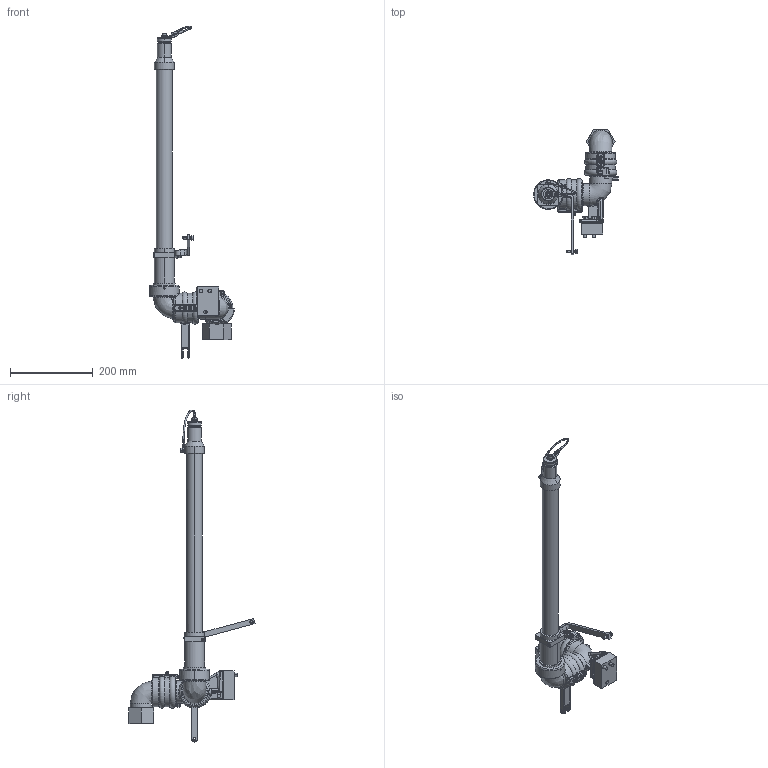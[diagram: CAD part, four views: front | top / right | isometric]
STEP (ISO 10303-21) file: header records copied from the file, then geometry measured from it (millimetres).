
FILE_DESCRIPTION((''),'2;1');
FILE_NAME('D31932_SW0001','2014-03-07T',('cleon'),(''),'PRO/ENGINEER BY PARAMETRIC TECHNOLOGY CORPORATION, 2011180','PRO/ENGINEER BY PARAMETRIC TECHNOLOGY CORPORATION, 2011180','');
FILE_SCHEMA(('CONFIG_CONTROL_DESIGN'));
Length unit declared in the file: inch
Products named in the file (1): D31932_SW0001
Bounding box: 204.91 x 304.23 x 801.52 mm (x, y, z)
Surface area: 361201.2 mm2 (no closed solid volume)
Topology: 0 solids, 45 shells, 804 faces, 2157 edges, 1366 vertices
Faces by surface type: cylinder 271, plane 192, bspline 151, cone 95, torus 80, sphere 14, extrusion 1
Entity records: 37023 total; most frequent: CARTESIAN_POINT 18338, ORIENTED_EDGE 3904, DIRECTION 3649, EDGE_CURVE 2144, AXIS2_PLACEMENT_3D 1469, VERTEX_POINT 1362, EDGE_LOOP 874, CIRCLE 817
